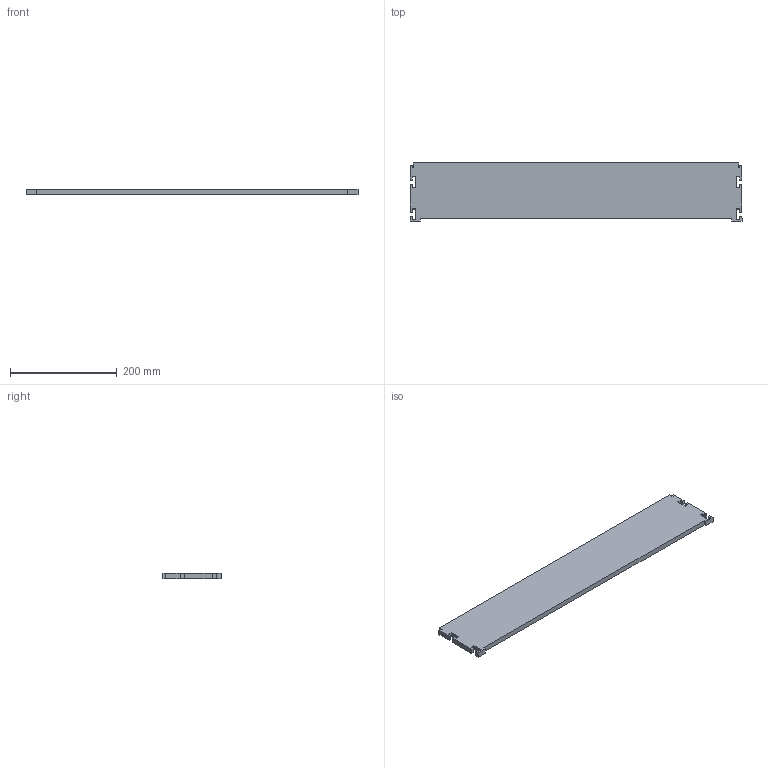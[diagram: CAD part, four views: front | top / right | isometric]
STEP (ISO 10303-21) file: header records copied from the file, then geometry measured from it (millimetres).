
FILE_DESCRIPTION (( 'STEP AP214' ), '1' );
FILE_NAME ('620 baan.STEP', '2017-02-08T12:27:25', ( '' ), ( '' ), 'SwSTEP 2.0', 'SolidWorks 2016', '' );
FILE_SCHEMA (( 'AUTOMOTIVE_DESIGN' ));
Length unit declared in the file: millimetre
Products named in the file (1): 620 baan
Bounding box: 621 x 109 x 10 mm (x, y, z)
Volume: 642317.6 mm3; surface area: 145171.5 mm2
Topology: 1 solids, 1 shells, 54 faces, 156 edges, 104 vertices
Faces by surface type: plane 54
Entity records: 1774 total; most frequent: CARTESIAN_POINT 315, ORIENTED_EDGE 312, DIRECTION 266, EDGE_CURVE 156, VECTOR 156, LINE 156, VERTEX_POINT 104, AXIS2_PLACEMENT_3D 55
